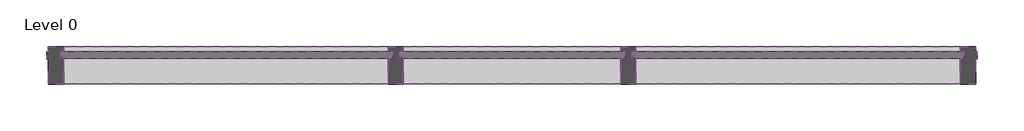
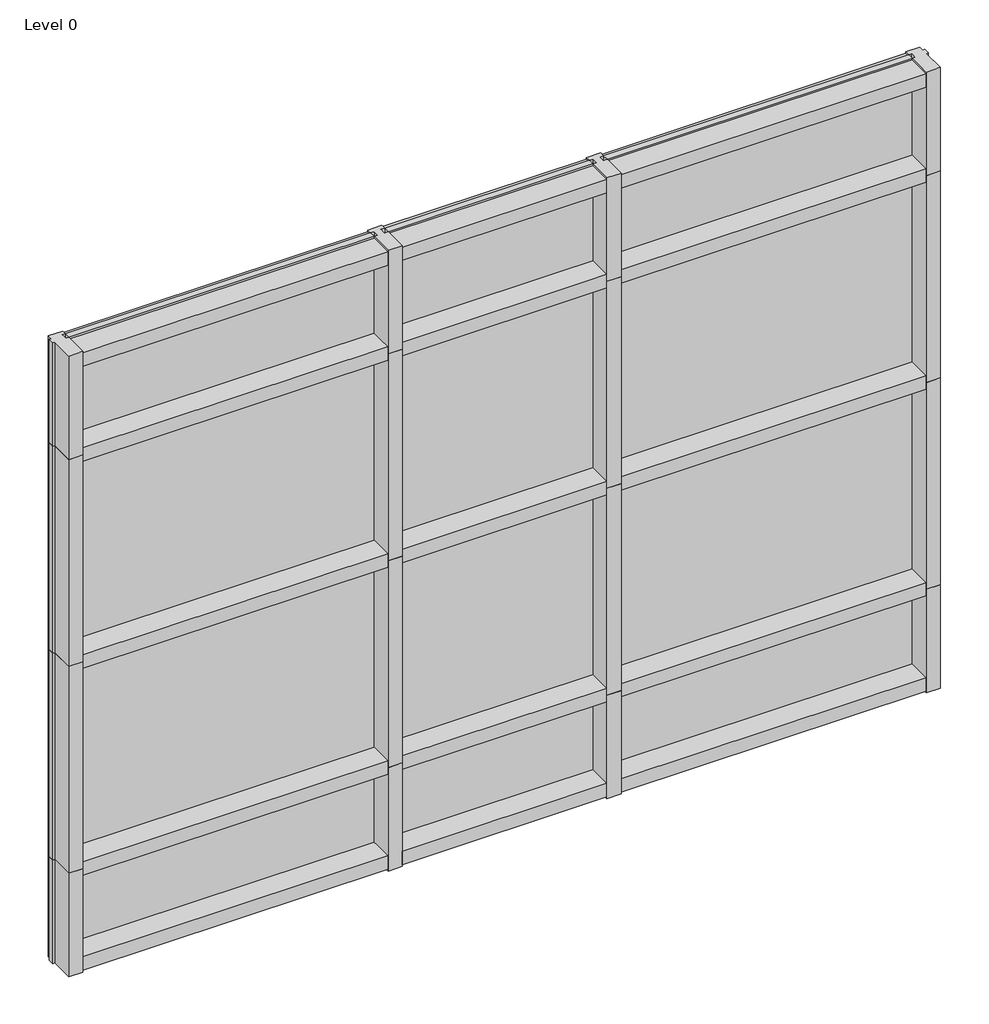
# One storey: 31 members, 12 plates.
"""IFC4 building model written with IfcOpenShell, lengths in millimetres."""

from ifc_helpers import new_model, si_unit, origin, place, context, project, spatial, transform, mapped, element, save
from components import rectangular_mullion_mullion_internal_c4b4ccbf, rectangular_mullion_mullion_internal_a03026a6, rectangular_mullion_mullion_jamb_left_50a4b429, rectangular_mullion_mullion_jamb_left_ab2141e3, rectangular_mullion_mullion_jamb_right_9be2126c, rectangular_mullion_mullion_jamb_right_0f8f1cf8, rectangular_mullion_transom_cill_0e649152, rectangular_mullion_transom_cill_c45ca5f9, rectangular_mullion_transom_internal_22ee2171, rectangular_mullion_transom_internal_ea29bc59, system_panel_glazed_f3d6d61c, system_panel_glazed_67192023, system_panel_glazed_185e8e03, system_panel_glazed_6c143bdf

model = new_model("IFC4")

# Units and contexts
model_context = context("Model", 3, world=origin())
ifc_project = project(units=[si_unit("LENGTHUNIT", "METRE", prefix="MILLI")], contexts=[model_context])

# Site, building, storey
site = spatial("IfcSite", under=ifc_project)
building = spatial("IfcBuilding", under=site)
storey = spatial("IfcBuildingStorey", under=building, Name="Level 0", Elevation=0.0)

# Members
placement = place(None, origin())
rectangular_mullion_mullion_internal_shape = rectangular_mullion_mullion_internal_c4b4ccbf(model_context)
element("IfcMember", 1, ObjectType="Rectangular Mullion : Mullion - Internal", at=placement, inside=storey, context=model_context, shape_type="MappedRepresentation", body=[
    mapped(rectangular_mullion_mullion_internal_shape, transform((-1081.4809684, 822.8590643, 2500.0), x_axis=(1.0, 0.0, 0.0), y_axis=(0.0, -1.0, 0.0), z_axis=(0.0, 0.0, -1.0))),
])
element("IfcMember", 2, ObjectType="Rectangular Mullion : Mullion - Internal", at=placement, inside=storey, context=model_context, shape_type="MappedRepresentation", body=[
    mapped(rectangular_mullion_mullion_internal_shape, transform((-81.4809684, 822.8590643, 2500.0), x_axis=(1.0, 0.0, 0.0), y_axis=(0.0, -1.0, 0.0), z_axis=(0.0, 0.0, -1.0))),
])
element("IfcMember", 3, ObjectType="Rectangular Mullion : Mullion - Internal", at=placement, inside=storey, context=model_context, shape_type="MappedRepresentation", body=[
    mapped(rectangular_mullion_mullion_internal_shape, transform((-81.4809684, 822.8590643, 0.0), x_axis=(1.0, 0.0, 0.0), y_axis=(0.0, -1.0, 0.0), z_axis=(0.0, 0.0, -1.0))),
])
element("IfcMember", 4, ObjectType="Rectangular Mullion : Mullion - Internal", at=placement, inside=storey, context=model_context, shape_type="MappedRepresentation", body=[
    mapped(rectangular_mullion_mullion_internal_shape, transform((-1081.4809684, 822.8590643, 0.0), x_axis=(1.0, 0.0, 0.0), y_axis=(0.0, -1.0, 0.0), z_axis=(0.0, 0.0, -1.0))),
])
rectangular_mullion_mullion_internal_2_shape = rectangular_mullion_mullion_internal_a03026a6(model_context)
element("IfcMember", 5, ObjectType="Rectangular Mullion : Mullion - Internal", at=placement, inside=storey, context=model_context, shape_type="MappedRepresentation", body=[
    mapped(rectangular_mullion_mullion_internal_2_shape, transform((-1081.4809684, 822.8590643, 500.0), x_axis=(1.0, 0.0, 0.0), y_axis=(0.0, -1.0, 0.0), z_axis=(0.0, 0.0, -1.0))),
])
element("IfcMember", 6, ObjectType="Rectangular Mullion : Mullion - Internal", at=placement, inside=storey, context=model_context, shape_type="MappedRepresentation", body=[
    mapped(rectangular_mullion_mullion_internal_2_shape, transform((-81.4809684, 822.8590643, 500.0), x_axis=(1.0, 0.0, 0.0), y_axis=(0.0, -1.0, 0.0), z_axis=(0.0, 0.0, -1.0))),
])
element("IfcMember", 7, ObjectType="Rectangular Mullion : Mullion - Internal", at=placement, inside=storey, context=model_context, shape_type="MappedRepresentation", body=[
    mapped(rectangular_mullion_mullion_internal_2_shape, transform((-1081.4809684, 822.8590643, 1500.0), x_axis=(1.0, 0.0, 0.0), y_axis=(0.0, -1.0, 0.0), z_axis=(0.0, 0.0, -1.0))),
])
element("IfcMember", 8, ObjectType="Rectangular Mullion : Mullion - Internal", at=placement, inside=storey, context=model_context, shape_type="MappedRepresentation", body=[
    mapped(rectangular_mullion_mullion_internal_2_shape, transform((-81.4809684, 822.8590643, 1500.0), x_axis=(1.0, 0.0, 0.0), y_axis=(0.0, -1.0, 0.0), z_axis=(0.0, 0.0, -1.0))),
])
rectangular_mullion_mullion_jamb_left_shape = rectangular_mullion_mullion_jamb_left_50a4b429(model_context)
element("IfcMember", 9, ObjectType="Rectangular Mullion : Mullion - Jamb Left", at=placement, inside=storey, context=model_context, shape_type="MappedRepresentation", body=[
    mapped(rectangular_mullion_mullion_jamb_left_shape, transform((-2581.4809684, 822.8590643, 3000.0), x_axis=(-1.0, 0.0, 0.0), y_axis=(0.0, -1.0, 0.0), z_axis=(0.0, 0.0, 1.0))),
])
element("IfcMember", 10, ObjectType="Rectangular Mullion : Mullion - Jamb Left", at=placement, inside=storey, context=model_context, shape_type="MappedRepresentation", body=[
    mapped(rectangular_mullion_mullion_jamb_left_shape, transform((-2581.4809684, 822.8590643, 500.0), x_axis=(-1.0, 0.0, 0.0), y_axis=(0.0, -1.0, 0.0), z_axis=(0.0, 0.0, 1.0))),
])
rectangular_mullion_mullion_jamb_left_2_shape = rectangular_mullion_mullion_jamb_left_ab2141e3(model_context)
element("IfcMember", 11, ObjectType="Rectangular Mullion : Mullion - Jamb Left", at=placement, inside=storey, context=model_context, shape_type="MappedRepresentation", body=[
    mapped(rectangular_mullion_mullion_jamb_left_2_shape, transform((-2581.4809684, 822.8590643, 2500.0), x_axis=(-1.0, 0.0, 0.0), y_axis=(0.0, -1.0, 0.0), z_axis=(0.0, 0.0, 1.0))),
])
element("IfcMember", 12, ObjectType="Rectangular Mullion : Mullion - Jamb Left", at=placement, inside=storey, context=model_context, shape_type="MappedRepresentation", body=[
    mapped(rectangular_mullion_mullion_jamb_left_2_shape, transform((-2581.4809684, 822.8590643, 1500.0), x_axis=(-1.0, 0.0, 0.0), y_axis=(0.0, -1.0, 0.0), z_axis=(0.0, 0.0, 1.0))),
])
rectangular_mullion_mullion_jamb_right_shape = rectangular_mullion_mullion_jamb_right_9be2126c(model_context)
element("IfcMember", 13, ObjectType="Rectangular Mullion : Mullion - Jamb Right", at=placement, inside=storey, context=model_context, shape_type="MappedRepresentation", body=[
    mapped(rectangular_mullion_mullion_jamb_right_shape, transform((1418.5190316, 822.8590643, 2500.0), x_axis=(1.0, 0.0, 0.0), y_axis=(0.0, -1.0, 0.0), z_axis=(0.0, 0.0, -1.0))),
])
element("IfcMember", 14, ObjectType="Rectangular Mullion : Mullion - Jamb Right", at=placement, inside=storey, context=model_context, shape_type="MappedRepresentation", body=[
    mapped(rectangular_mullion_mullion_jamb_right_shape, transform((1418.5190316, 822.8590643, 0.0), x_axis=(1.0, 0.0, 0.0), y_axis=(0.0, -1.0, 0.0), z_axis=(0.0, 0.0, -1.0))),
])
rectangular_mullion_mullion_jamb_right_2_shape = rectangular_mullion_mullion_jamb_right_0f8f1cf8(model_context)
element("IfcMember", 15, ObjectType="Rectangular Mullion : Mullion - Jamb Right", at=placement, inside=storey, context=model_context, shape_type="MappedRepresentation", body=[
    mapped(rectangular_mullion_mullion_jamb_right_2_shape, transform((1418.5190316, 822.8590643, 500.0), x_axis=(1.0, 0.0, 0.0), y_axis=(0.0, -1.0, 0.0), z_axis=(0.0, 0.0, -1.0))),
])
element("IfcMember", 16, ObjectType="Rectangular Mullion : Mullion - Jamb Right", at=placement, inside=storey, context=model_context, shape_type="MappedRepresentation", body=[
    mapped(rectangular_mullion_mullion_jamb_right_2_shape, transform((1418.5190316, 822.8590643, 1500.0), x_axis=(1.0, 0.0, 0.0), y_axis=(0.0, -1.0, 0.0), z_axis=(0.0, 0.0, -1.0))),
])
rectangular_mullion_transom_cill_shape = rectangular_mullion_transom_cill_0e649152(model_context)
element("IfcMember", 17, ObjectType="Rectangular Mullion : Transom - Cill", at=placement, inside=storey, context=model_context, shape_type="MappedRepresentation", body=[
    mapped(rectangular_mullion_transom_cill_shape, transform((-2508.4809684, 822.8590643, 0.0), x_axis=(0.0, 0.0, -1.0), y_axis=(0.0, -1.0, 0.0), z_axis=(-1.0, 0.0, 0.0))),
])
element("IfcMember", 18, ObjectType="Rectangular Mullion : Transom - Cill", at=placement, inside=storey, context=model_context, shape_type="MappedRepresentation", body=[
    mapped(rectangular_mullion_transom_cill_shape, transform((-48.9809684, 822.8590643, 0.0), x_axis=(0.0, 0.0, -1.0), y_axis=(0.0, -1.0, 0.0), z_axis=(-1.0, 0.0, 0.0))),
])
rectangular_mullion_transom_cill_2_shape = rectangular_mullion_transom_cill_c45ca5f9(model_context)
element("IfcMember", 19, ObjectType="Rectangular Mullion : Transom - Cill", at=placement, inside=storey, context=model_context, shape_type="MappedRepresentation", body=[
    mapped(rectangular_mullion_transom_cill_2_shape, transform((-1048.9809684, 822.8590643, 0.0), x_axis=(0.0, 0.0, -1.0), y_axis=(0.0, -1.0, 0.0), z_axis=(-1.0, 0.0, 0.0))),
])
element("IfcMember", 20, ObjectType="Rectangular Mullion : Transom - Head", at=placement, inside=storey, context=model_context, shape_type="MappedRepresentation", body=[
    mapped(rectangular_mullion_transom_cill_shape, transform((1345.5190316, 822.8590643, 3000.0), x_axis=(0.0, 0.0, 1.0), y_axis=(0.0, -1.0, 0.0), z_axis=(1.0, 0.0, 0.0))),
])
element("IfcMember", 21, ObjectType="Rectangular Mullion : Transom - Head", at=placement, inside=storey, context=model_context, shape_type="MappedRepresentation", body=[
    mapped(rectangular_mullion_transom_cill_shape, transform((-1113.9809684, 822.8590643, 3000.0), x_axis=(0.0, 0.0, 1.0), y_axis=(0.0, -1.0, 0.0), z_axis=(1.0, 0.0, 0.0))),
])
element("IfcMember", 22, ObjectType="Rectangular Mullion : Transom - Head", at=placement, inside=storey, context=model_context, shape_type="MappedRepresentation", body=[
    mapped(rectangular_mullion_transom_cill_2_shape, transform((-113.9809684, 822.8590643, 3000.0), x_axis=(0.0, 0.0, 1.0), y_axis=(0.0, -1.0, 0.0), z_axis=(1.0, 0.0, 0.0))),
])
rectangular_mullion_transom_internal_shape = rectangular_mullion_transom_internal_22ee2171(model_context)
element("IfcMember", 23, ObjectType="Rectangular Mullion : Transom - Internal", at=placement, inside=storey, context=model_context, shape_type="MappedRepresentation", body=[
    mapped(rectangular_mullion_transom_internal_shape, transform((-113.9809684, 822.8590643, 500.0), x_axis=(0.0, 0.0, 1.0), y_axis=(0.0, -1.0, 0.0), z_axis=(1.0, 0.0, 0.0))),
])
element("IfcMember", 24, ObjectType="Rectangular Mullion : Transom - Internal", at=placement, inside=storey, context=model_context, shape_type="MappedRepresentation", body=[
    mapped(rectangular_mullion_transom_internal_shape, transform((-113.9809684, 822.8590643, 2500.0), x_axis=(0.0, 0.0, 1.0), y_axis=(0.0, -1.0, 0.0), z_axis=(1.0, 0.0, 0.0))),
])
element("IfcMember", 25, ObjectType="Rectangular Mullion : Transom - Internal", at=placement, inside=storey, context=model_context, shape_type="MappedRepresentation", body=[
    mapped(rectangular_mullion_transom_internal_shape, transform((-113.9809684, 822.8590643, 1500.0), x_axis=(0.0, 0.0, 1.0), y_axis=(0.0, -1.0, 0.0), z_axis=(1.0, 0.0, 0.0))),
])
rectangular_mullion_transom_internal_2_shape = rectangular_mullion_transom_internal_ea29bc59(model_context)
element("IfcMember", 26, ObjectType="Rectangular Mullion : Transom - Internal", at=placement, inside=storey, context=model_context, shape_type="MappedRepresentation", body=[
    mapped(rectangular_mullion_transom_internal_2_shape, transform((-1113.9809684, 822.8590643, 500.0), x_axis=(0.0, 0.0, 1.0), y_axis=(0.0, -1.0, 0.0), z_axis=(1.0, 0.0, 0.0))),
])
element("IfcMember", 27, ObjectType="Rectangular Mullion : Transom - Internal", at=placement, inside=storey, context=model_context, shape_type="MappedRepresentation", body=[
    mapped(rectangular_mullion_transom_internal_2_shape, transform((1345.5190316, 822.8590643, 500.0), x_axis=(0.0, 0.0, 1.0), y_axis=(0.0, -1.0, 0.0), z_axis=(1.0, 0.0, 0.0))),
])
element("IfcMember", 28, ObjectType="Rectangular Mullion : Transom - Internal", at=placement, inside=storey, context=model_context, shape_type="MappedRepresentation", body=[
    mapped(rectangular_mullion_transom_internal_2_shape, transform((-1113.9809684, 822.8590643, 2500.0), x_axis=(0.0, 0.0, 1.0), y_axis=(0.0, -1.0, 0.0), z_axis=(1.0, 0.0, 0.0))),
])
element("IfcMember", 29, ObjectType="Rectangular Mullion : Transom - Internal", at=placement, inside=storey, context=model_context, shape_type="MappedRepresentation", body=[
    mapped(rectangular_mullion_transom_internal_2_shape, transform((1345.5190316, 822.8590643, 2500.0), x_axis=(0.0, 0.0, 1.0), y_axis=(0.0, -1.0, 0.0), z_axis=(1.0, 0.0, 0.0))),
])
element("IfcMember", 30, ObjectType="Rectangular Mullion : Transom - Internal", at=placement, inside=storey, context=model_context, shape_type="MappedRepresentation", body=[
    mapped(rectangular_mullion_transom_internal_2_shape, transform((-1113.9809684, 822.8590643, 1500.0), x_axis=(0.0, 0.0, 1.0), y_axis=(0.0, -1.0, 0.0), z_axis=(1.0, 0.0, 0.0))),
])
element("IfcMember", 31, ObjectType="Rectangular Mullion : Transom - Internal", at=placement, inside=storey, context=model_context, shape_type="MappedRepresentation", body=[
    mapped(rectangular_mullion_transom_internal_2_shape, transform((1345.5190316, 822.8590643, 1500.0), x_axis=(0.0, 0.0, 1.0), y_axis=(0.0, -1.0, 0.0), z_axis=(1.0, 0.0, 0.0))),
])

# Plates
system_panel_glazed_shape = system_panel_glazed_f3d6d61c(model_context)
element("IfcPlate", 32, ObjectType="System Panel : Glazed", at=placement, inside=storey, context=model_context, shape_type="MappedRepresentation", body=[
    mapped(system_panel_glazed_shape, transform((-1809.2309684, 822.8590643, 59.0), x_axis=(1.0, 0.0, 0.0), y_axis=(0.0, 1.0, 0.0), z_axis=(0.0, 0.0, 1.0))),
])
element("IfcPlate", 33, ObjectType="System Panel : Glazed", at=placement, inside=storey, context=model_context, shape_type="MappedRepresentation", body=[
    mapped(system_panel_glazed_shape, transform((646.2690316, 822.8590643, 59.0), x_axis=(1.0, 0.0, 0.0), y_axis=(0.0, 1.0, 0.0), z_axis=(0.0, 0.0, 1.0))),
])
element("IfcPlate", 34, ObjectType="System Panel : Glazed", at=placement, inside=storey, context=model_context, shape_type="MappedRepresentation", body=[
    mapped(system_panel_glazed_shape, transform((-1809.2309684, 822.8590643, 2518.5), x_axis=(1.0, 0.0, 0.0), y_axis=(0.0, 1.0, 0.0), z_axis=(0.0, 0.0, 1.0))),
])
element("IfcPlate", 35, ObjectType="System Panel : Glazed", at=placement, inside=storey, context=model_context, shape_type="MappedRepresentation", body=[
    mapped(system_panel_glazed_shape, transform((646.2690316, 822.8590643, 2518.5), x_axis=(1.0, 0.0, 0.0), y_axis=(0.0, 1.0, 0.0), z_axis=(0.0, 0.0, 1.0))),
])
system_panel_glazed_2_shape = system_panel_glazed_67192023(model_context)
element("IfcPlate", 36, ObjectType="System Panel : Glazed", at=placement, inside=storey, context=model_context, shape_type="MappedRepresentation", body=[
    mapped(system_panel_glazed_2_shape, transform((-581.4809684, 822.8590643, 59.0), x_axis=(1.0, 0.0, 0.0), y_axis=(0.0, 1.0, 0.0), z_axis=(0.0, 0.0, 1.0))),
])
element("IfcPlate", 37, ObjectType="System Panel : Glazed", at=placement, inside=storey, context=model_context, shape_type="MappedRepresentation", body=[
    mapped(system_panel_glazed_2_shape, transform((-581.4809684, 822.8590643, 2518.5), x_axis=(1.0, 0.0, 0.0), y_axis=(0.0, 1.0, 0.0), z_axis=(0.0, 0.0, 1.0))),
])
system_panel_glazed_3_shape = system_panel_glazed_185e8e03(model_context)
element("IfcPlate", 38, ObjectType="System Panel : Glazed", at=placement, inside=storey, context=model_context, shape_type="MappedRepresentation", body=[
    mapped(system_panel_glazed_3_shape, transform((-581.4809684, 822.8590643, 518.5), x_axis=(1.0, 0.0, 0.0), y_axis=(0.0, 1.0, 0.0), z_axis=(0.0, 0.0, 1.0))),
])
element("IfcPlate", 39, ObjectType="System Panel : Glazed", at=placement, inside=storey, context=model_context, shape_type="MappedRepresentation", body=[
    mapped(system_panel_glazed_3_shape, transform((-581.4809684, 822.8590643, 1518.5), x_axis=(1.0, 0.0, 0.0), y_axis=(0.0, 1.0, 0.0), z_axis=(0.0, 0.0, 1.0))),
])
system_panel_glazed_4_shape = system_panel_glazed_6c143bdf(model_context)
element("IfcPlate", 40, ObjectType="System Panel : Glazed", at=placement, inside=storey, context=model_context, shape_type="MappedRepresentation", body=[
    mapped(system_panel_glazed_4_shape, transform((-1809.2309684, 822.8590643, 518.5), x_axis=(1.0, 0.0, 0.0), y_axis=(0.0, 1.0, 0.0), z_axis=(0.0, 0.0, 1.0))),
])
element("IfcPlate", 41, ObjectType="System Panel : Glazed", at=placement, inside=storey, context=model_context, shape_type="MappedRepresentation", body=[
    mapped(system_panel_glazed_4_shape, transform((646.2690316, 822.8590643, 518.5), x_axis=(1.0, 0.0, 0.0), y_axis=(0.0, 1.0, 0.0), z_axis=(0.0, 0.0, 1.0))),
])
element("IfcPlate", 42, ObjectType="System Panel : Glazed", at=placement, inside=storey, context=model_context, shape_type="MappedRepresentation", body=[
    mapped(system_panel_glazed_4_shape, transform((-1809.2309684, 822.8590643, 1518.5), x_axis=(1.0, 0.0, 0.0), y_axis=(0.0, 1.0, 0.0), z_axis=(0.0, 0.0, 1.0))),
])
element("IfcPlate", 43, ObjectType="System Panel : Glazed", at=placement, inside=storey, context=model_context, shape_type="MappedRepresentation", body=[
    mapped(system_panel_glazed_4_shape, transform((646.2690316, 822.8590643, 1518.5), x_axis=(1.0, 0.0, 0.0), y_axis=(0.0, 1.0, 0.0), z_axis=(0.0, 0.0, 1.0))),
])

save(model, "model.ifc")
